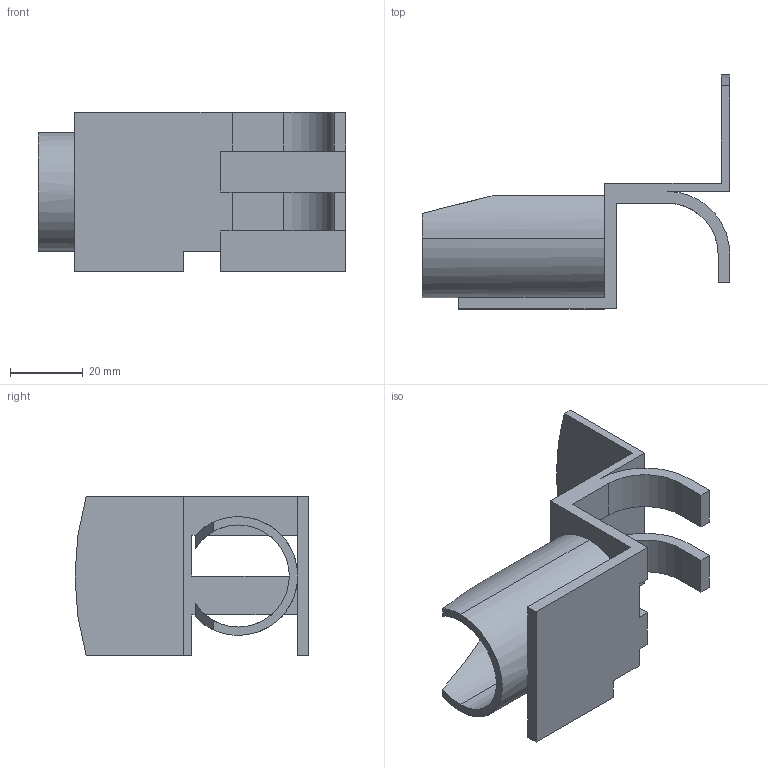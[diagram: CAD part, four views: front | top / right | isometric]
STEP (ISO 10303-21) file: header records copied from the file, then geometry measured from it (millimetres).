
FILE_DESCRIPTION (( 'STEP AP214' ), '1' );
FILE_NAME ('JB-512.step', '2023-12-26T01:15:00', ( 'catia' ), ( 'HP Inc.' ), 'SwSTEP 2.0', 'SolidWorks 2021', '' );
FILE_SCHEMA (( 'AUTOMOTIVE_DESIGN' ));
Length unit declared in the file: millimetre
Products named in the file (1): JB-512
Bounding box: 84.4 x 64.2 x 43.8 mm (x, y, z)
Volume: 25423.6 mm3; surface area: 20976.4 mm2
Topology: 1 solids, 1 shells, 49 faces, 148 edges, 95 vertices
Faces by surface type: plane 38, cylinder 11
Entity records: 1691 total; most frequent: CARTESIAN_POINT 305, ORIENTED_EDGE 296, DIRECTION 275, EDGE_CURVE 148, VECTOR 113, LINE 113, VERTEX_POINT 95, AXIS2_PLACEMENT_3D 81
